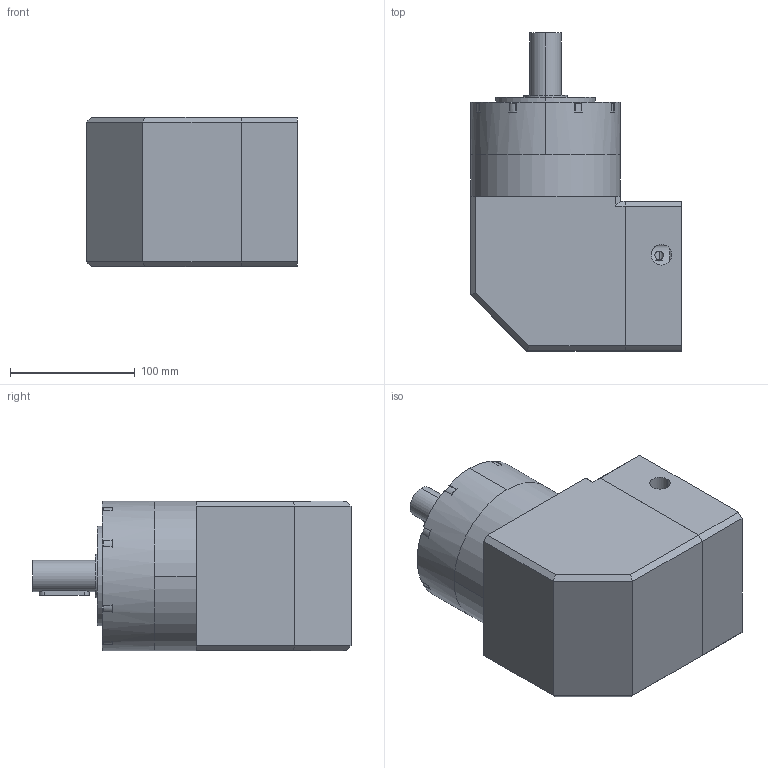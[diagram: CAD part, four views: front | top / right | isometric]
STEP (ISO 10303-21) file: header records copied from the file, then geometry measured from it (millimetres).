
FILE_DESCRIPTION (( 'STEP AP214' ), '1' );
FILE_NAME ('PER-120-L1-S2-P2 22-110-145-M8.STEP', '2023-08-30T09:48:48', ( '微软用户' ), ( '微软中国' ), 'SwSTEP 2.0', 'SolidWorks 2018', '' );
FILE_SCHEMA (( 'AUTOMOTIVE_DESIGN' ));
Length unit declared in the file: millimetre
Products named in the file (9): PER120-薊粣ん-梓袧; 螺釘範本 M8x20; PER120 κｳﾝﾈｦ_ﾒｻｼｶﾄﾚｳﾝﾈｦ; 邧埴瑩 8x7x40; PER120-眊极; PER120-蟀諉啣; 粣創-3207A 35x72x27_2; PER-120-L1-S2-P2 22-110-145-M8; PER120 奻屳唳
Assembly tree (8 placements, depth 2):
  PER-120-L1-S2-P2 22-110-145-M8
    PER120-眊极
    PER120 κｳﾝﾈｦ_ﾒｻｼｶﾄﾚｳﾝﾈｦ
    PER120 奻屳唳
    PER120-蟀諉啣
    PER120-薊粣ん-梓袧
    螺釘範本 M8x20
    邧埴瑩 8x7x40
    粣創-3207A 35x72x27_2
Bounding box: 169 x 255 x 120 mm (x, y, z)
Volume: 3000606 mm3; surface area: 312201.1 mm2
Topology: 8 solids, 16 shells, 582 faces, 1616 edges, 1041 vertices
Faces by surface type: cylinder 213, plane 199, bspline 138, cone 32
Entity records: 29151 total; most frequent: CARTESIAN_POINT 8265, ORIENTED_EDGE 3148, DIRECTION 2771, EDGE_CURVE 1574, AXIS2_PLACEMENT_3D 1103, VERTEX_POINT 1033, EDGE_LOOP 659, CIRCLE 648
